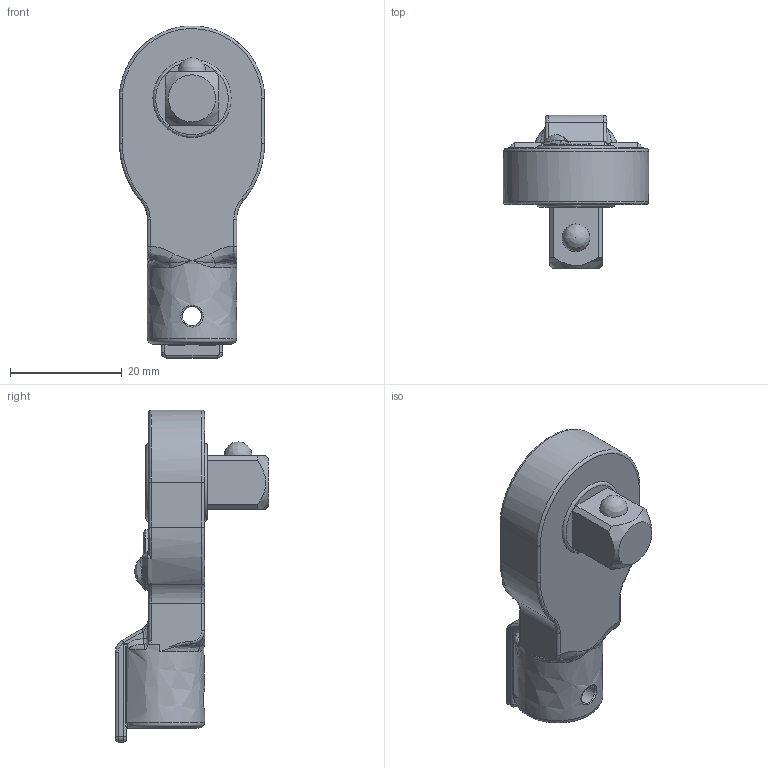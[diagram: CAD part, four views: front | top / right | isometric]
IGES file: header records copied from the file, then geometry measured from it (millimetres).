
Global section: file name: QH10D; native system: Autodesk Inventor 2016; preprocessor: unknown; author: Q600; date: 20151016.131034; units: millimetre
Bounding box: 26 x 27.5 x 59.48 mm (x, y, z)
Volume: 12353 mm3; surface area: 4726.6 mm2
Topology: 1 solids, 1 shells, 186 faces, 453 edges, 252 vertices
Faces by surface type: bspline 186
